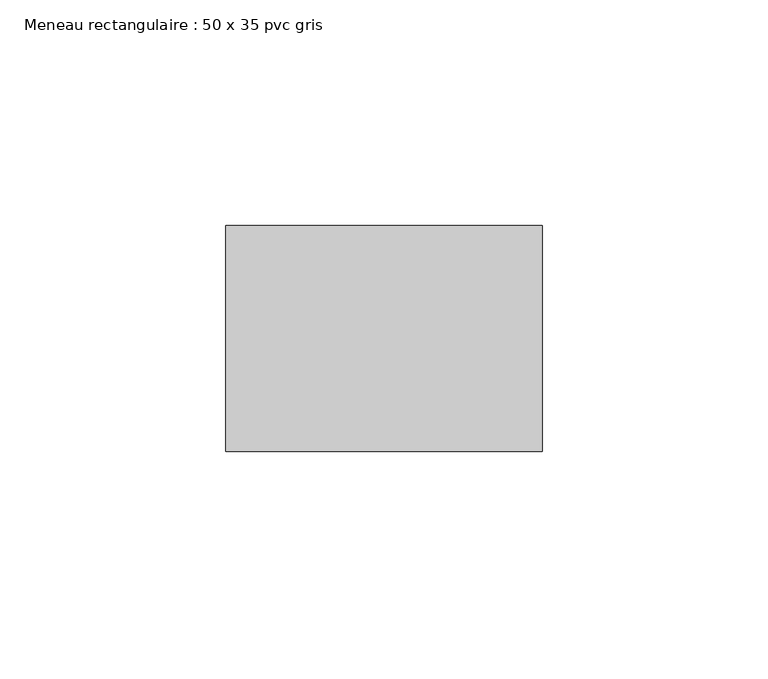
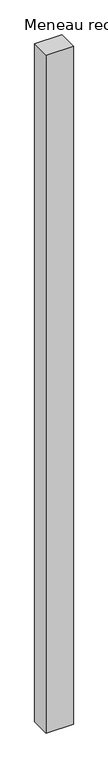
"""IFC4 building model written with IfcOpenShell, lengths in millimetres: member geometry, Meneau rectangulaire : 50 x 35 pvc gris."""

from ifc_helpers import new_model, si_unit, frame, origin, place, context, project, spatial, polyline, outline, extrude, source, transform, mapped, element, save


def meneau_rectangulaire_50_x_35_pvc_gris_e3e26b70(model_context):
    return source(origin(), model_context, "Body", "SweptSolid", [
        extrude(outline(polyline([(0.0, 0.0), (0.0, -50.0), (-70.0, -50.0), (-70.0, 0.0), (0.0, 0.0)])), frame((0.0, 0.0, -1832.0), z_axis=(0.0, 0.0, 1.0), x_axis=(1.0, 0.0, 0.0)), (0.0, 0.0, 1.0), 1832.0),
    ])


if __name__ == "__main__":
    model = new_model("IFC4")
    model_context = context("Model", 3, world=origin())
    ifc_project = project(units=[si_unit("LENGTHUNIT", "METRE", prefix="MILLI")], contexts=[model_context])
    site = spatial("IfcSite", under=ifc_project)
    building = spatial("IfcBuilding", under=site)
    placement = place(None, origin())
    meneau_rectangulaire_50_x_35_pvc_gris_shape = meneau_rectangulaire_50_x_35_pvc_gris_e3e26b70(model_context)
    element("IfcMember", 1, ObjectType="Meneau rectangulaire : 50 x 35 pvc gris", at=placement, inside=building, context=model_context, shape_type="MappedRepresentation", body=[
        mapped(meneau_rectangulaire_50_x_35_pvc_gris_shape, transform((0.0, 0.0, 0.0), x_axis=(1.0, 0.0, 0.0), y_axis=(0.0, 1.0, 0.0), z_axis=(0.0, 0.0, 1.0))),
    ])
    save(model, "model.ifc")
